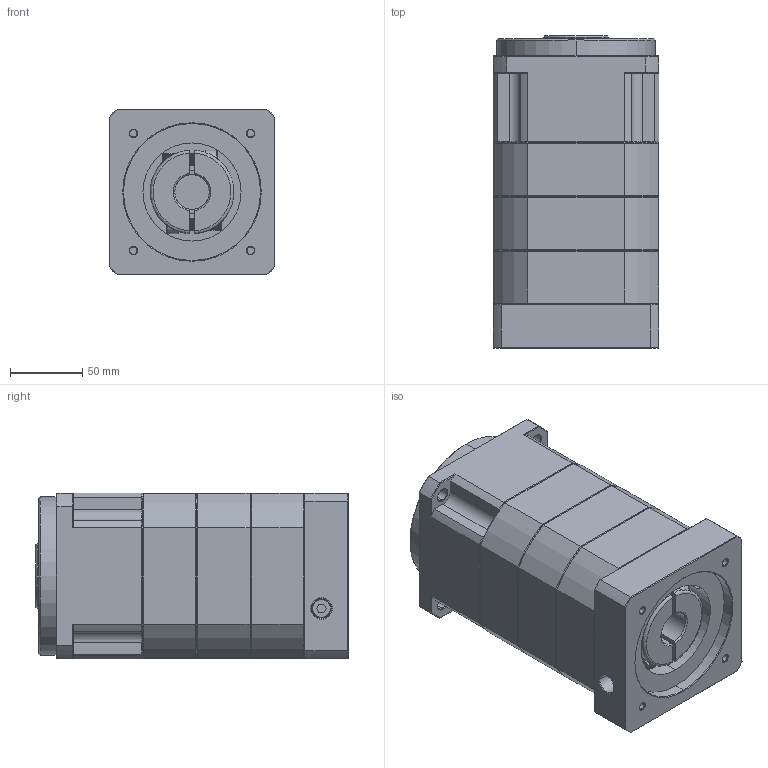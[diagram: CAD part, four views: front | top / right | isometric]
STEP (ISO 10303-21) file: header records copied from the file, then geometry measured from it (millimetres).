
FILE_DESCRIPTION (( 'STEP AP214' ), '1' );
FILE_NAME ('ZPB115-K32-L3-P1-24-95-115-M6.step', '2024-06-12T10:03:10', ( 'Windows 蚚誧' ), ( 'Organization' ), 'SwSTEP 2.0', 'SolidWorks 2016', '' );
FILE_SCHEMA (( 'AUTOMOTIVE_DESIGN' ));
Length unit declared in the file: millimetre
Products named in the file (1): ZPB115-K32-L3-P1-24-95-115-M6
Bounding box: 115 x 216.5 x 115 mm (x, y, z)
Surface area: 152235.3 mm2 (no closed solid volume)
Topology: 0 solids, 28 shells, 1811 faces, 4871 edges, 3122 vertices
Faces by surface type: plane 937, bspline 374, cone 276, cylinder 224
Entity records: 87126 total; most frequent: CARTESIAN_POINT 37954, ORIENTED_EDGE 9740, DIRECTION 7492, EDGE_CURVE 4871, VECTOR 3166, LINE 3166, VERTEX_POINT 3122, AXIS2_PLACEMENT_3D 2163
